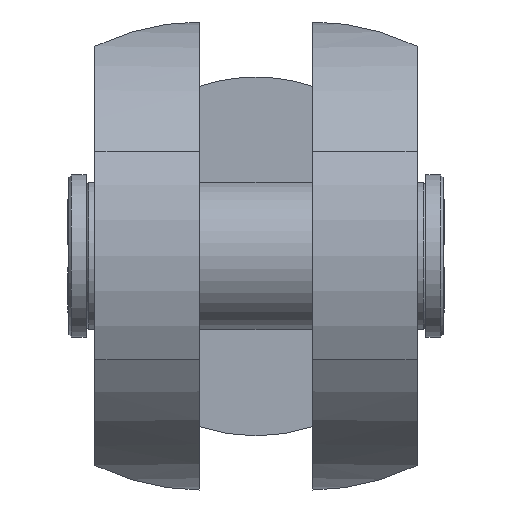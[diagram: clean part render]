
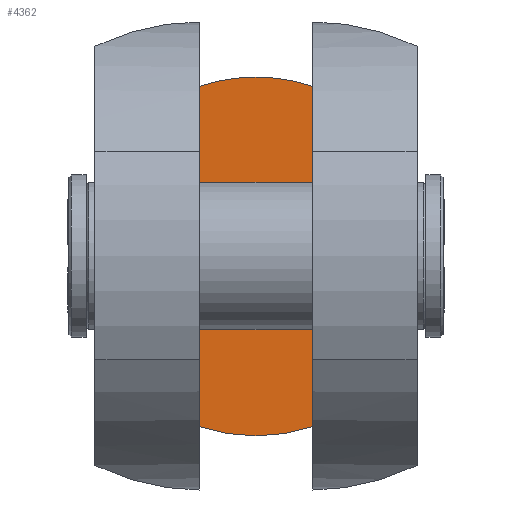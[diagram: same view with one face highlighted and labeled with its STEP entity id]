
A CAD part, top view. The second image highlights one B-rep face of the part: STEP entity #4362.
In plain terms, the highlighted planar face has unit normal (0, 0, 1).
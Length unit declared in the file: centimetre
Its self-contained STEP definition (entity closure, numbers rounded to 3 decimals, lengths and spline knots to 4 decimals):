
#464=LINE('',#7229,#848);
#465=LINE('',#7231,#849);
#848=VECTOR('',#5683,27.2587);
#849=VECTOR('',#5686,27.2587);
#1082=PLANE('',#4683);
#1412=FACE_OUTER_BOUND('',#1741,.T.);
#1741=EDGE_LOOP('',(#3825,#3826,#3827,#3828));
#1808=CIRCLE('',#4537,14.3688);
#1809=CIRCLE('',#4538,14.3688);
#1941=VERTEX_POINT('',#6101);
#1942=VERTEX_POINT('',#6105);
#1947=VERTEX_POINT('',#6141);
#1948=VERTEX_POINT('',#6145);
#2349=EDGE_CURVE('',#1941,#1942,#1808,.T.);
#2355=EDGE_CURVE('',#1947,#1948,#1809,.T.);
#2750=EDGE_CURVE('',#1947,#1942,#464,.T.);
#2751=EDGE_CURVE('',#1948,#1941,#465,.T.);
#3825=ORIENTED_EDGE('',*,*,#2355,.F.);
#3826=ORIENTED_EDGE('',*,*,#2750,.T.);
#3827=ORIENTED_EDGE('',*,*,#2349,.F.);
#3828=ORIENTED_EDGE('',*,*,#2751,.F.);
#4362=ADVANCED_FACE('',(#1412),#1082,.F.);
#4537=AXIS2_PLACEMENT_3D('',#6106,#5057,#5058);
#4538=AXIS2_PLACEMENT_3D('',#6146,#5059,#5060);
#4683=AXIS2_PLACEMENT_3D('',#7230,#5684,#5685);
#5057=DIRECTION('center_axis',(0.,0.,
-1.));
#5058=DIRECTION('ref_axis',(0.,1.,0.));
#5059=DIRECTION('center_axis',(0.,0.,
-1.));
#5060=DIRECTION('ref_axis',(0.,1.,0.));
#5683=DIRECTION('',(0.,-1.,0.));
#5684=DIRECTION('center_axis',(0.,0.,
-1.));
#5685=DIRECTION('ref_axis',(1.,0.,0.));
#5686=DIRECTION('',(0.,-1.,0.));
#6101=CARTESIAN_POINT('',(4.55,-13.6293,-22.2));
#6105=CARTESIAN_POINT('',(-4.55,-13.6293,-22.2));
#6106=CARTESIAN_POINT('Origin',(0.,0.,
-22.2));
#6141=CARTESIAN_POINT('',(-4.55,13.6293,-22.2));
#6145=CARTESIAN_POINT('',(4.55,13.6293,-22.2));
#6146=CARTESIAN_POINT('Origin',(0.,0.,
-22.2));
#7229=CARTESIAN_POINT('',(-4.55,0.,-22.2));
#7230=CARTESIAN_POINT('Origin',(-4.55,0.,-22.2));
#7231=CARTESIAN_POINT('',(4.55,0.,-22.2));
